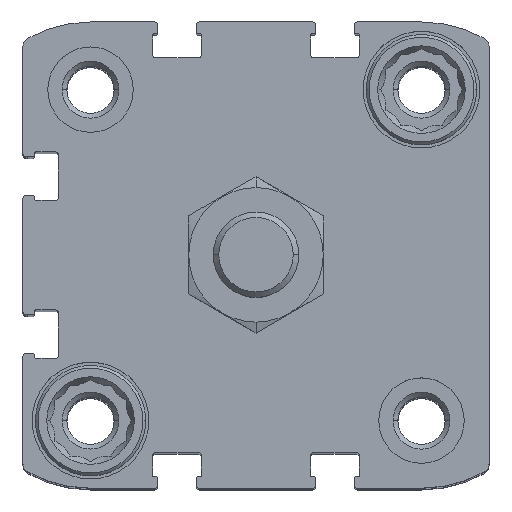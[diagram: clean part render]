
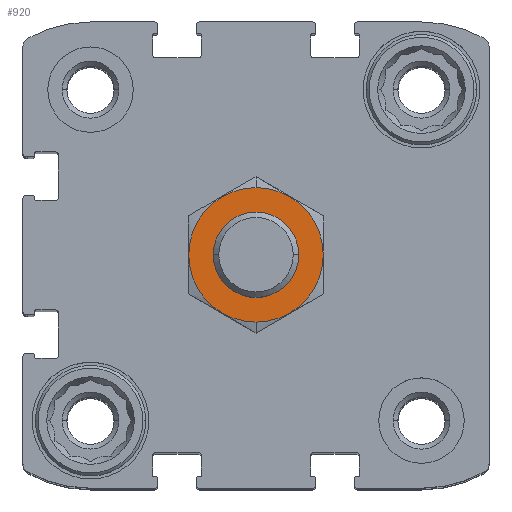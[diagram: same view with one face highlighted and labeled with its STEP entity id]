
A CAD part, top view. The second image highlights one B-rep face of the part: STEP entity #920.
In plain terms, the highlighted planar face has unit normal (0, 0, 1).
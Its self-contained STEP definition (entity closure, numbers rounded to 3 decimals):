
#183 = FACE_OUTER_BOUND ( 'NONE', #2926, .T. ) ;
#518 = DIRECTION ( 'NONE',  ( 0., 1., 0. ) ) ;
#920 = ADVANCED_FACE ( 'NONE', ( #183, #8278 ), #14798, .F. ) ;
#1388 = CIRCLE ( 'NONE', #7772, 6. ) ;
#2332 = CIRCLE ( 'NONE', #12063, 9.45 ) ;
#2926 = EDGE_LOOP ( 'NONE', ( #12813, #15817 ) ) ;
#3515 = DIRECTION ( 'NONE',  ( 0., 0., -1. ) ) ;
#3571 = AXIS2_PLACEMENT_3D ( 'NONE', #4194, #5512, #518 ) ;
#3999 = DIRECTION ( 'NONE',  ( 0., 1., 0. ) ) ;
#4194 = CARTESIAN_POINT ( 'NONE',  ( 0., 0., 19.5 ) ) ;
#5512 = DIRECTION ( 'NONE',  ( 0., 0., -1. ) ) ;
#6293 = AXIS2_PLACEMENT_3D ( 'NONE', #6724, #11868, #10810 ) ;
#6618 = DIRECTION ( 'NONE',  ( 0., 0., -1. ) ) ;
#6724 = CARTESIAN_POINT ( 'NONE',  ( 0., 0., 19.5 ) ) ;
#6916 = CARTESIAN_POINT ( 'NONE',  ( 0., -9.45, 19.5 ) ) ;
#7085 = CARTESIAN_POINT ( 'NONE',  ( 0., 0., 19.5 ) ) ;
#7167 = EDGE_CURVE ( 'NONE', #8762, #7994, #7655, .T. ) ;
#7306 = CARTESIAN_POINT ( 'NONE',  ( 0., -6., 19.5 ) ) ;
#7533 = ORIENTED_EDGE ( 'NONE', *, *, #15335, .T. ) ;
#7655 = CIRCLE ( 'NONE', #6293, 9.45 ) ;
#7772 = AXIS2_PLACEMENT_3D ( 'NONE', #13215, #6618, #3999 ) ;
#7994 = VERTEX_POINT ( 'NONE', #6916 ) ;
#8004 = CARTESIAN_POINT ( 'NONE',  ( 0., 9.45, 19.5 ) ) ;
#8278 = FACE_BOUND ( 'NONE', #12514, .T. ) ;
#8762 = VERTEX_POINT ( 'NONE', #8004 ) ;
#9915 = CIRCLE ( 'NONE', #10491, 6. ) ;
#10491 = AXIS2_PLACEMENT_3D ( 'NONE', #16554, #3515, #15328 ) ;
#10810 = DIRECTION ( 'NONE',  ( 0., 1., 0. ) ) ;
#10964 = EDGE_CURVE ( 'NONE', #7994, #8762, #2332, .T. ) ;
#11205 = VERTEX_POINT ( 'NONE', #15867 ) ;
#11255 = DIRECTION ( 'NONE',  ( 0., 0., -1. ) ) ;
#11868 = DIRECTION ( 'NONE',  ( 0., 0., -1. ) ) ;
#12063 = AXIS2_PLACEMENT_3D ( 'NONE', #7085, #11255, #12395 ) ;
#12395 = DIRECTION ( 'NONE',  ( 0., 1., 0. ) ) ;
#12514 = EDGE_LOOP ( 'NONE', ( #7533, #16231 ) ) ;
#12813 = ORIENTED_EDGE ( 'NONE', *, *, #7167, .F. ) ;
#13144 = EDGE_CURVE ( 'NONE', #11205, #16499, #9915, .T. ) ;
#13215 = CARTESIAN_POINT ( 'NONE',  ( 0., 0., 19.5 ) ) ;
#14798 = PLANE ( 'NONE',  #3571 ) ;
#15328 = DIRECTION ( 'NONE',  ( 0., 1., 0. ) ) ;
#15335 = EDGE_CURVE ( 'NONE', #16499, #11205, #1388, .T. ) ;
#15817 = ORIENTED_EDGE ( 'NONE', *, *, #10964, .F. ) ;
#15867 = CARTESIAN_POINT ( 'NONE',  ( 0., 6., 19.5 ) ) ;
#16231 = ORIENTED_EDGE ( 'NONE', *, *, #13144, .T. ) ;
#16499 = VERTEX_POINT ( 'NONE', #7306 ) ;
#16554 = CARTESIAN_POINT ( 'NONE',  ( 0., 0., 19.5 ) ) ;
